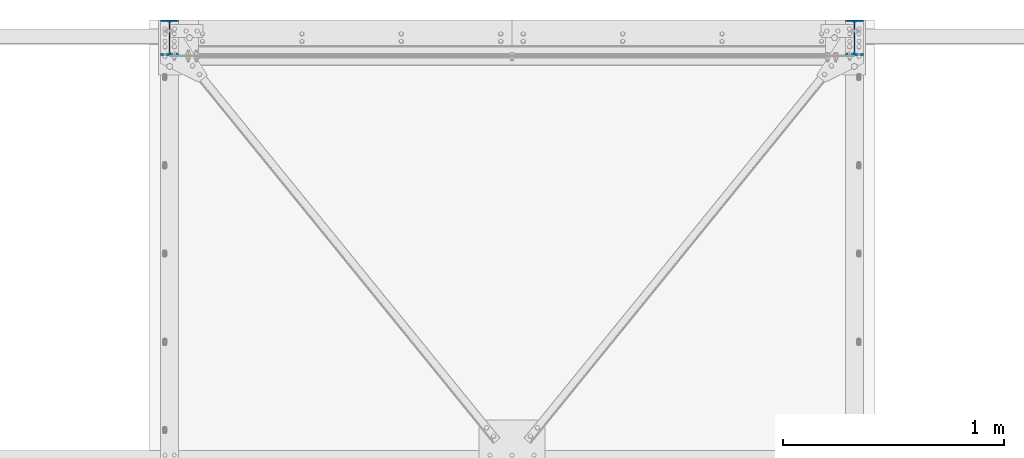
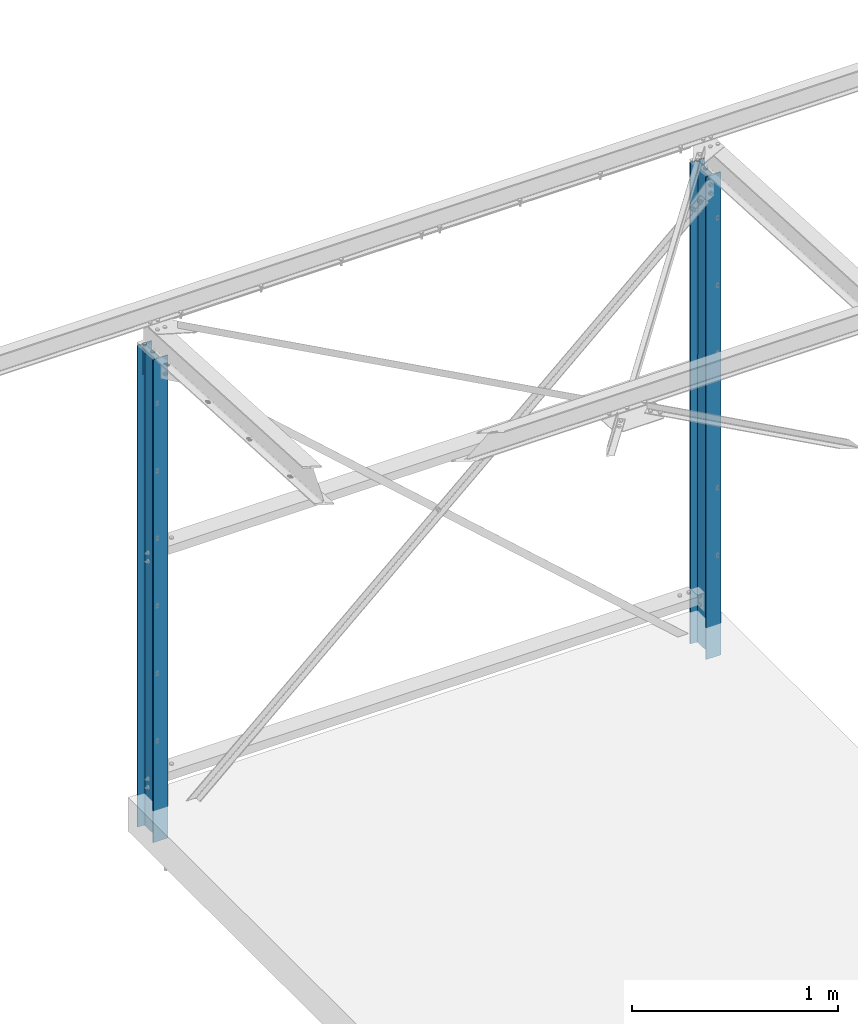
# One storey, part 1 of 10: 2 columns, 2 elements without a shape of their own.
"""IFC2X3 building model written with IfcOpenShell, lengths in millimetres."""

import ifcopenshell
import ifcopenshell.guid

model = None  # the IFC model being written
_history = None  # IfcOwnerHistory: only IFC2X3 demands one
_inside = {}  # id of a spatial element -> (the spatial element, [elements in it])
_under = {}  # id of a project, library or spatial element -> (it, [spatial elements below it])
_declared = {}  # id of a project -> (the project, [libraries it declares])
_typed = {}  # id of a type object -> (the type object, [elements of that type])
_made_of = {}  # id of a material, layer set ... -> (it, [elements and type objects made of it])


def new_model(schema):
    """Start an empty IFC model of exactly this schema.

    Asked for "IFC4X3", IfcOpenShell would pick the latest addendum, in which some entities
    have other attributes; the version numbers below select the first issue.
    IFC2X3 requires an IfcOwnerHistory on every rooted entity: one is made here for all.
    """
    global model, _history
    if schema == "IFC4X3":
        model = ifcopenshell.file(schema_version=(4, 3, 0, 0))
    else:
        model = ifcopenshell.file(schema=schema)
    _inside.clear()
    _under.clear()
    _declared.clear()
    _typed.clear()
    _made_of.clear()
    _history = None
    if model.schema == "IFC2X3":
        org = make("IfcOrganization", Name="unknown")
        user = make(
            "IfcPersonAndOrganization",
            ThePerson=make("IfcPerson", FamilyName="unknown"),
            TheOrganization=org,
        )
        app = make(
            "IfcApplication",
            ApplicationDeveloper=org,
            Version="unknown",
            ApplicationFullName="unknown",
            ApplicationIdentifier="unknown",
        )
        _history = make(
            "IfcOwnerHistory",
            OwningUser=user,
            OwningApplication=app,
            ChangeAction="ADDED",
            CreationDate=0,
        )
    return model


def make(cls, **values):
    """One entity of the class cls with the attributes given. An attribute that is None is left unset."""
    return model.create_entity(
        cls, **{name: value for name, value in values.items() if value is not None}
    )


def rooted(cls, **values):
    """An entity with a GlobalId (a new one), such as an element, a storey or a relation."""
    return make(cls, GlobalId=ifcopenshell.guid.new(), OwnerHistory=_history, **values)


def si_unit(unit_type, name, prefix=None):
    """IfcSIUnit, for example si_unit("LENGTHUNIT", "METRE", prefix="MILLI")."""
    return make("IfcSIUnit", UnitType=unit_type, Prefix=prefix, Name=name)


def assignment(units):
    """IfcUnitAssignment: the units of a project."""
    return None if units is None else make("IfcUnitAssignment", Units=units)


def point(xyz):
    """IfcCartesianPoint."""
    return None if xyz is None else make("IfcCartesianPoint", Coordinates=xyz)


def direction(xyz):
    """IfcDirection."""
    return None if xyz is None else make("IfcDirection", DirectionRatios=xyz)


def frame(location, z_axis=None, x_axis=None):
    """IfcAxis2Placement3D, a coordinate frame: its origin and axes. An axis left out is left unset."""
    return make(
        "IfcAxis2Placement3D",
        Location=point(location),
        Axis=direction(z_axis),
        RefDirection=direction(x_axis),
    )


def frame_2d(location, x_axis=None):
    """IfcAxis2Placement2D, a coordinate frame in the plane: its origin and x axis."""
    return make(
        "IfcAxis2Placement2D", Location=point(location), RefDirection=direction(x_axis)
    )


def origin_with_axes():
    """The frame at (0, 0, 0) with the z axis (0, 0, 1) and the x axis (1, 0, 0) written out."""
    return frame((0.0, 0.0, 0.0), z_axis=(0.0, 0.0, 1.0), x_axis=(1.0, 0.0, 0.0))


def origin_2d_with_axis():
    """The frame at (0, 0) in the plane with the x axis (1, 0) written out."""
    return frame_2d((0.0, 0.0), x_axis=(1.0, 0.0))


def place(relative_to, where):
    """IfcLocalPlacement: puts the frame where relative to a parent placement (None: the world)."""
    return make(
        "IfcLocalPlacement", PlacementRelTo=relative_to, RelativePlacement=where
    )


def context(
    kind, dimensions, precision=None, world=None, true_north=None, identifier=None
):
    """IfcGeometricRepresentationContext, for example the 3D "Model" context."""
    return make(
        "IfcGeometricRepresentationContext",
        ContextIdentifier=identifier,
        ContextType=kind,
        CoordinateSpaceDimension=dimensions,
        Precision=precision,
        WorldCoordinateSystem=world,
        TrueNorth=true_north,
    )


def subcontext(parent, identifier, kind, view, scale=None):
    """IfcGeometricRepresentationSubContext, for example "Body" below "Model"."""
    return make(
        "IfcGeometricRepresentationSubContext",
        ContextIdentifier=identifier,
        ContextType=kind,
        ParentContext=parent,
        TargetScale=scale,
        TargetView=view,
    )


def project(units=None, contexts=None):
    """IfcProject with its units and contexts."""
    return rooted(
        "IfcProject",
        Name="project",
        RepresentationContexts=contexts,
        UnitsInContext=assignment(units),
    )


def spatial(cls, under=None, at=None, **own):
    """A site, building, storey or space (cls), placed at a placement, below another one or the project."""
    s = rooted(cls, ObjectPlacement=at, **own)
    if under is not None:
        _under.setdefault(under.id(), (under, []))[1].append(s)
    return s


def profile(cls, at=None, kind="AREA", **sizes):
    """A parametric profile (cls). Its sizes go by their IFC names, for example OverallWidth=200.0."""
    return make(cls, ProfileType=kind, Position=at, **sizes)


def i_section(**sizes):
    """IfcIShapeProfileDef."""
    return profile("IfcIShapeProfileDef", **sizes)


def extrude(swept, where, along, depth):
    """IfcExtrudedAreaSolid: the profile swept, set in the frame where, extruded along a direction by depth."""
    return make(
        "IfcExtrudedAreaSolid",
        SweptArea=swept,
        Position=where,
        ExtrudedDirection=direction(along),
        Depth=depth,
    )


def clip(a, b, op="DIFFERENCE"):
    """IfcBooleanClippingResult: the solid a cut by the half space b."""
    return make(
        "IfcBooleanClippingResult", Operator=op, FirstOperand=a, SecondOperand=b
    )


def halfspace(plane, agree):
    """IfcHalfSpaceSolid: all space on one side of the plane z = 0 of the frame plane."""
    return make(
        "IfcHalfSpaceSolid",
        BaseSurface=make("IfcPlane", Position=plane),
        AgreementFlag=agree,
    )


def shape(context_of_items, identifier, shape_type, items):
    """IfcShapeRepresentation: the items that make up one representation, for example the "Body"."""
    return make(
        "IfcShapeRepresentation",
        ContextOfItems=context_of_items,
        RepresentationIdentifier=identifier,
        RepresentationType=shape_type,
        Items=items,
    )


def material(Name=None, Category=None):
    """IfcMaterial."""
    return make("IfcMaterial", Name=Name, Category=Category)


def made_of(thing, what):
    """Note that an element or type object is made of a material, layer set ...; save() writes the relation."""
    if what is not None:
        _made_of.setdefault(what.id(), (what, []))[1].append(thing)
    return thing


def type_object(cls, material=None, **own):
    """A type object (cls), such as IfcWallType, which elements share."""
    return made_of(rooted(cls, **own), material)


def element(
    cls,
    number,
    at=None,
    inside=None,
    cuts=None,
    type_object=None,
    material=None,
    context=None,
    identifier="Body",
    shape_type=None,
    held_by="IfcProductDefinitionShape",
    body=None,
    shapes=None,
    **own,
):
    """One element of the class cls, such as IfcWall. Its Tag is "e" and its number.

    at: its placement. inside: the storey or other place that contains it. cuts: it is an
    opening in that element (IfcRelVoidsElement). A single representation is given by context,
    identifier, shape_type and body (its items); several are given by shapes. held_by: the class
    of the entity that holds the representations. save() writes the other relations.
    """
    e = rooted(cls, Tag="e%d" % number, ObjectPlacement=at, **own)
    if body is not None:
        shapes = [shape(context, identifier, shape_type, body)]
    if shapes is not None:
        e.Representation = make(held_by, Representations=shapes)
    if inside is not None:
        _inside.setdefault(inside.id(), (inside, []))[1].append(e)
    if cuts is not None:
        rooted(
            "IfcRelVoidsElement", RelatingBuildingElement=cuts, RelatedOpeningElement=e
        )
    if type_object is not None:
        _typed.setdefault(type_object.id(), (type_object, []))[1].append(e)
    return made_of(e, material)


def aggregate(whole, parts):
    """IfcRelAggregates: a whole, such as a stair, and the parts it consists of."""
    return rooted("IfcRelAggregates", RelatingObject=whole, RelatedObjects=parts)


def save(model, path):
    """Write the relations noted so far, then the file.

    IfcRelAggregates (storeys below a building ...), IfcRelContainedInSpatialStructure (elements
    in a storey), IfcRelDefinesByType, IfcRelAssociatesMaterial and IfcRelDeclares: one each for
    every whole, place, type object, material and project.
    """
    for whole, parts in _under.values():
        aggregate(whole, parts)
    for where, things in _inside.values():
        rooted(
            "IfcRelContainedInSpatialStructure",
            RelatedElements=things,
            RelatingStructure=where,
        )
    for kind, things in _typed.values():
        rooted("IfcRelDefinesByType", RelatedObjects=things, RelatingType=kind)
    for what, things in _made_of.values():
        rooted("IfcRelAssociatesMaterial", RelatedObjects=things, RelatingMaterial=what)
    for by, libraries in _declared.values():
        rooted("IfcRelDeclares", RelatingContext=by, RelatedDefinitions=libraries)
    model.write(path)


model = new_model("IFC2X3")

# Units and contexts
model_context = context("Model", 3, precision=1e-05, world=origin_with_axes())
body_context = subcontext(model_context, "Body", "Model", "MODEL_VIEW")
ifc_project = project(units=[si_unit("LENGTHUNIT", "METRE", prefix="MILLI"), si_unit("AREAUNIT", "SQUARE_METRE"), si_unit("VOLUMEUNIT", "CUBIC_METRE"), si_unit("MASSUNIT", "GRAM", prefix="KILO"), si_unit("TIMEUNIT", "SECOND"), si_unit("PLANEANGLEUNIT", "RADIAN"), si_unit("SOLIDANGLEUNIT", "STERADIAN"), si_unit("THERMODYNAMICTEMPERATUREUNIT", "DEGREE_CELSIUS"), si_unit("LUMINOUSINTENSITYUNIT", "LUMEN")], contexts=[model_context])

# Site, building, storey
site_placement = place(None, origin_with_axes())
site = spatial("IfcSite", under=ifc_project, at=site_placement, Name="Undefined", CompositionType="ELEMENT")
building_placement = place(site_placement, origin_with_axes())
building = spatial("IfcBuilding", under=site, at=building_placement, Name="Undefined", CompositionType="ELEMENT")
storey_placement = place(building_placement, origin_with_axes())
storey = spatial("IfcBuildingStorey", under=building, at=storey_placement, Name="Undefined", CompositionType="ELEMENT", Elevation=0.0)

# Assembly, column
assembly_1_placement = place(storey_placement, origin_with_axes())
assembly_1 = element("IfcElementAssembly", 1, at=assembly_1_placement, inside=storey, Name="POTEAU", AssemblyPlace="NOTDEFINED", PredefinedType="NOTDEFINED")
ifc_material = material(Name="Undefined/S275-E28")
column_type = type_object("IfcColumnType", Name="IPE160", PredefinedType="NOTDEFINED")
column_1_placement = place(assembly_1_placement, frame((32002.9999789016, 29240.0000892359, -190.00000000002), z_axis=(0.0, 0.0, 1.0), x_axis=(0.0, 1.0, 0.0)))
column_1 = element("IfcColumn", 2, at=column_1_placement, type_object=column_type, material=ifc_material, Name="POTEAU", ObjectType="IPE160", context=body_context, shape_type="Clipping", body=[
    clip(extrude(i_section(OverallWidth=82.0, OverallDepth=160.0, WebThickness=5.0, FlangeThickness=7.400000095, FilletRadius=9.0, at=origin_2d_with_axis()), frame((0.0, 0.0, 2861.99932070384), z_axis=(1.80000123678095e-08, 0.0, -1.0), x_axis=(0.0, 1.0, 0.0)), (0.0, 0.0, 1.0), 2862.0), halfspace(frame((-80.6323996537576, 3099.99999917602, 2861.990582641), z_axis=(-0.0523092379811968, 1.37715964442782e-08, -0.998630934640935), x_axis=(-8.92000021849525e-07, -0.999999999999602, 0.0)), True)),
])
aggregate(assembly_1, [column_1])

assembly_2_placement = place(storey_placement, origin_with_axes())
assembly_2 = element("IfcElementAssembly", 3, at=assembly_2_placement, inside=storey, Name="POTEAU", AssemblyPlace="NOTDEFINED", PredefinedType="NOTDEFINED")
column_2_placement = place(assembly_2_placement, frame((28902.9999389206, 29240.0000662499, -190.0), z_axis=(0.0, 0.0, 1.0), x_axis=(0.0, 1.0, 0.0)))
column_2 = element("IfcColumn", 4, at=column_2_placement, type_object=column_type, material=ifc_material, Name="POTEAU", ObjectType="IPE160", context=body_context, shape_type="Clipping", body=[
    clip(extrude(i_section(OverallWidth=82.0, OverallDepth=160.0, WebThickness=5.0, FlangeThickness=7.400000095, FilletRadius=9.0, at=origin_2d_with_axis()), frame((0.0, 0.0, 2861.99932070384), z_axis=(1.80000123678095e-08, 0.0, -1.0), x_axis=(0.0, 1.0, 0.0)), (0.0, 0.0, 1.0), 2862.0), halfspace(frame((-43.8956718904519, -3.13066266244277e-07, 2860.06623636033), z_axis=(-0.0523092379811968, 1.37715964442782e-08, -0.998630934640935), x_axis=(-8.92000021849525e-07, -0.999999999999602, 0.0)), True)),
])
aggregate(assembly_2, [column_2])

save(model, "model.ifc")
